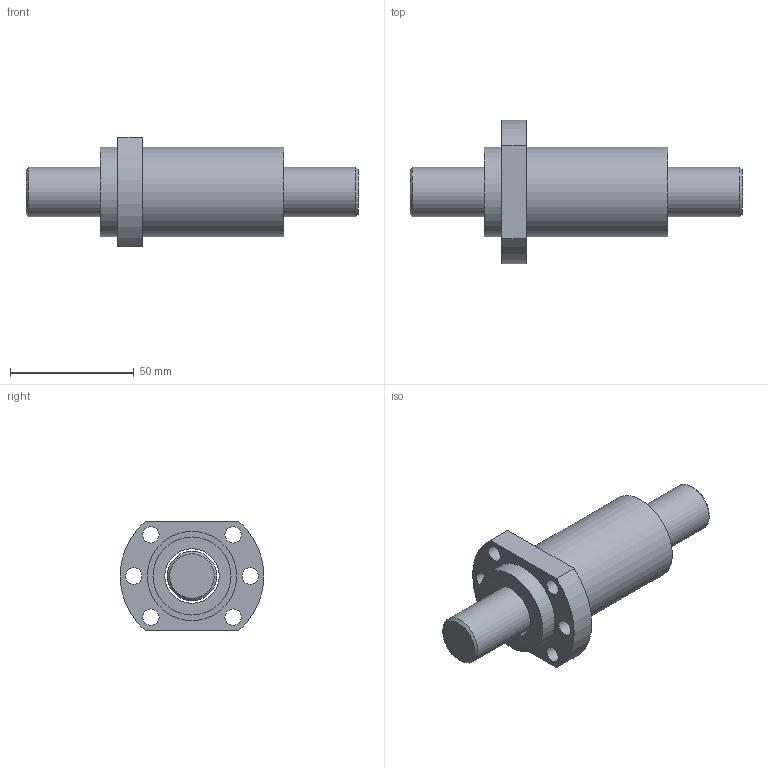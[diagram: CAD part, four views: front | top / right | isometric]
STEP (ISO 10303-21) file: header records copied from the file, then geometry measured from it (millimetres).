
FILE_DESCRIPTION(/* description */ (''),/* implementation_level */ '2;1');
FILE_NAME(/* name */ 'SFH2020-2.8.stp',/* time_stamp */ '2015-11-23T08:42:59+08:00',/* author */ (''),/* organization */ (''),/* preprocessor_version */ 'ST-DEVELOPER v11',/* originating_system */ 'SIEMENS UGS NX 6.0',/* authorisation */ '');
FILE_SCHEMA (('CONFIG_CONTROL_DESIGN'));
Length unit declared in the file: millimetre
Products named in the file (1): fann7DDE8qsx
Bounding box: 134 x 58 x 44 mm (x, y, z)
Volume: 99797 mm3; surface area: 32612.2 mm2
Topology: 4 solids, 4 shells, 50 faces, 90 edges, 60 vertices
Faces by surface type: cylinder 26, plane 22, cone 2
Full cylindrical faces by diameter (mm): 6.6 x6, 20 x1, 22 x3, 28 x4, 31.5 x4, 33 x4, 36 x2
Entity records: 1216 total; most frequent: DIRECTION 218, CARTESIAN_POINT 171, ORIENTED_EDGE 124, EDGE_LOOP 106, AXIS2_PLACEMENT_3D 105, FACE_BOUND 100, EDGE_CURVE 62, VERTEX_POINT 58
